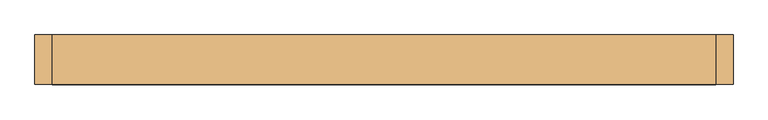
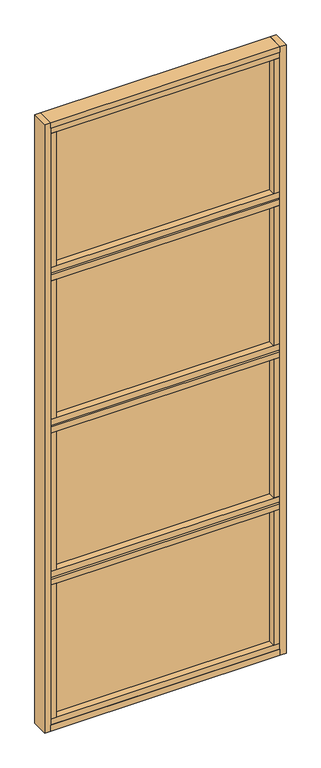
"""IFC4 building model written with IfcOpenShell, lengths in millimetres: door geometry, Mobiliário_Mobiliário de Escritório_Painel de Vidro Simples - AU4T (Completo)_Marelli : AU4T - Temperado."""

import ifcopenshell
import ifcopenshell.guid

model = None  # the IFC model being written
_history = None  # IfcOwnerHistory: only IFC2X3 demands one
_inside = {}  # id of a spatial element -> (the spatial element, [elements in it])
_under = {}  # id of a project, library or spatial element -> (it, [spatial elements below it])
_declared = {}  # id of a project -> (the project, [libraries it declares])
_typed = {}  # id of a type object -> (the type object, [elements of that type])
_made_of = {}  # id of a material, layer set ... -> (it, [elements and type objects made of it])


def new_model(schema):
    """Start an empty IFC model of exactly this schema.

    Asked for "IFC4X3", IfcOpenShell would pick the latest addendum, in which some entities
    have other attributes; the version numbers below select the first issue.
    IFC2X3 requires an IfcOwnerHistory on every rooted entity: one is made here for all.
    """
    global model, _history
    if schema == "IFC4X3":
        model = ifcopenshell.file(schema_version=(4, 3, 0, 0))
    else:
        model = ifcopenshell.file(schema=schema)
    _inside.clear()
    _under.clear()
    _declared.clear()
    _typed.clear()
    _made_of.clear()
    _history = None
    if model.schema == "IFC2X3":
        org = make("IfcOrganization", Name="unknown")
        user = make(
            "IfcPersonAndOrganization",
            ThePerson=make("IfcPerson", FamilyName="unknown"),
            TheOrganization=org,
        )
        app = make(
            "IfcApplication",
            ApplicationDeveloper=org,
            Version="unknown",
            ApplicationFullName="unknown",
            ApplicationIdentifier="unknown",
        )
        _history = make(
            "IfcOwnerHistory",
            OwningUser=user,
            OwningApplication=app,
            ChangeAction="ADDED",
            CreationDate=0,
        )
    return model


def make(cls, **values):
    """One entity of the class cls with the attributes given. An attribute that is None is left unset."""
    return model.create_entity(
        cls, **{name: value for name, value in values.items() if value is not None}
    )


def rooted(cls, **values):
    """An entity with a GlobalId (a new one), such as an element, a storey or a relation."""
    return make(cls, GlobalId=ifcopenshell.guid.new(), OwnerHistory=_history, **values)


def si_unit(unit_type, name, prefix=None):
    """IfcSIUnit, for example si_unit("LENGTHUNIT", "METRE", prefix="MILLI")."""
    return make("IfcSIUnit", UnitType=unit_type, Prefix=prefix, Name=name)


def assignment(units):
    """IfcUnitAssignment: the units of a project."""
    return None if units is None else make("IfcUnitAssignment", Units=units)


def point(xyz):
    """IfcCartesianPoint."""
    return None if xyz is None else make("IfcCartesianPoint", Coordinates=xyz)


def direction(xyz):
    """IfcDirection."""
    return None if xyz is None else make("IfcDirection", DirectionRatios=xyz)


def frame(location, z_axis=None, x_axis=None):
    """IfcAxis2Placement3D, a coordinate frame: its origin and axes. An axis left out is left unset."""
    return make(
        "IfcAxis2Placement3D",
        Location=point(location),
        Axis=direction(z_axis),
        RefDirection=direction(x_axis),
    )


def origin():
    """The frame at (0, 0, 0) with its axes left unset."""
    return frame((0.0, 0.0, 0.0))


def origin_with_axes():
    """The frame at (0, 0, 0) with the z axis (0, 0, 1) and the x axis (1, 0, 0) written out."""
    return frame((0.0, 0.0, 0.0), z_axis=(0.0, 0.0, 1.0), x_axis=(1.0, 0.0, 0.0))


def place(relative_to, where):
    """IfcLocalPlacement: puts the frame where relative to a parent placement (None: the world)."""
    return make(
        "IfcLocalPlacement", PlacementRelTo=relative_to, RelativePlacement=where
    )


def context(
    kind, dimensions, precision=None, world=None, true_north=None, identifier=None
):
    """IfcGeometricRepresentationContext, for example the 3D "Model" context."""
    return make(
        "IfcGeometricRepresentationContext",
        ContextIdentifier=identifier,
        ContextType=kind,
        CoordinateSpaceDimension=dimensions,
        Precision=precision,
        WorldCoordinateSystem=world,
        TrueNorth=true_north,
    )


def project(units=None, contexts=None):
    """IfcProject with its units and contexts."""
    return rooted(
        "IfcProject",
        Name="project",
        RepresentationContexts=contexts,
        UnitsInContext=assignment(units),
    )


def spatial(cls, under=None, at=None, **own):
    """A site, building, storey or space (cls), placed at a placement, below another one or the project."""
    s = rooted(cls, ObjectPlacement=at, **own)
    if under is not None:
        _under.setdefault(under.id(), (under, []))[1].append(s)
    return s


def polyline(points):
    """IfcPolyline through the points."""
    return make("IfcPolyline", Points=[point(p) for p in points])


def outline(outer, holes=None, kind="AREA"):
    """IfcArbitraryClosedProfileDef: a profile drawn as a closed curve; with holes, ...WithVoids."""
    if holes is None:
        return make("IfcArbitraryClosedProfileDef", ProfileType=kind, OuterCurve=outer)
    return make(
        "IfcArbitraryProfileDefWithVoids",
        ProfileType=kind,
        OuterCurve=outer,
        InnerCurves=holes,
    )


def extrude(swept, where, along, depth):
    """IfcExtrudedAreaSolid: the profile swept, set in the frame where, extruded along a direction by depth."""
    return make(
        "IfcExtrudedAreaSolid",
        SweptArea=swept,
        Position=where,
        ExtrudedDirection=direction(along),
        Depth=depth,
    )


def shape(context_of_items, identifier, shape_type, items):
    """IfcShapeRepresentation: the items that make up one representation, for example the "Body"."""
    return make(
        "IfcShapeRepresentation",
        ContextOfItems=context_of_items,
        RepresentationIdentifier=identifier,
        RepresentationType=shape_type,
        Items=items,
    )


def source(mapping_origin, context_of_items, identifier, shape_type, items):
    """IfcRepresentationMap: a shape defined once, which mapped items show again and again."""
    return make(
        "IfcRepresentationMap",
        MappingOrigin=mapping_origin,
        MappedRepresentation=shape(context_of_items, identifier, shape_type, items),
    )


def transform(
    local_origin,
    x_axis=None,
    y_axis=None,
    z_axis=None,
    scale=None,
    scale2=None,
    scale3=None,
    uniform=True,
):
    """IfcCartesianTransformationOperator3D, or its non-uniform kind. x_axis, y_axis, z_axis: its Axis1, 2, 3."""
    if uniform:
        return make(
            "IfcCartesianTransformationOperator3D",
            Axis1=direction(x_axis),
            Axis2=direction(y_axis),
            LocalOrigin=point(local_origin),
            Scale=scale,
            Axis3=direction(z_axis),
        )
    return make(
        "IfcCartesianTransformationOperator3DnonUniform",
        Axis1=direction(x_axis),
        Axis2=direction(y_axis),
        LocalOrigin=point(local_origin),
        Scale=scale,
        Axis3=direction(z_axis),
        Scale2=scale2,
        Scale3=scale3,
    )


def mapped(mapping_source, mapping_target):
    """IfcMappedItem: shows the shape of a source again, moved by a transform."""
    return make(
        "IfcMappedItem", MappingSource=mapping_source, MappingTarget=mapping_target
    )


def made_of(thing, what):
    """Note that an element or type object is made of a material, layer set ...; save() writes the relation."""
    if what is not None:
        _made_of.setdefault(what.id(), (what, []))[1].append(thing)
    return thing


def element(
    cls,
    number,
    at=None,
    inside=None,
    cuts=None,
    type_object=None,
    material=None,
    context=None,
    identifier="Body",
    shape_type=None,
    held_by="IfcProductDefinitionShape",
    body=None,
    shapes=None,
    **own,
):
    """One element of the class cls, such as IfcWall. Its Tag is "e" and its number.

    at: its placement. inside: the storey or other place that contains it. cuts: it is an
    opening in that element (IfcRelVoidsElement). A single representation is given by context,
    identifier, shape_type and body (its items); several are given by shapes. held_by: the class
    of the entity that holds the representations. save() writes the other relations.
    """
    e = rooted(cls, Tag="e%d" % number, ObjectPlacement=at, **own)
    if body is not None:
        shapes = [shape(context, identifier, shape_type, body)]
    if shapes is not None:
        e.Representation = make(held_by, Representations=shapes)
    if inside is not None:
        _inside.setdefault(inside.id(), (inside, []))[1].append(e)
    if cuts is not None:
        rooted(
            "IfcRelVoidsElement", RelatingBuildingElement=cuts, RelatedOpeningElement=e
        )
    if type_object is not None:
        _typed.setdefault(type_object.id(), (type_object, []))[1].append(e)
    return made_of(e, material)


def aggregate(whole, parts):
    """IfcRelAggregates: a whole, such as a stair, and the parts it consists of."""
    return rooted("IfcRelAggregates", RelatingObject=whole, RelatedObjects=parts)


def save(model, path):
    """Write the relations noted so far, then the file.

    IfcRelAggregates (storeys below a building ...), IfcRelContainedInSpatialStructure (elements
    in a storey), IfcRelDefinesByType, IfcRelAssociatesMaterial and IfcRelDeclares: one each for
    every whole, place, type object, material and project.
    """
    for whole, parts in _under.values():
        aggregate(whole, parts)
    for where, things in _inside.values():
        rooted(
            "IfcRelContainedInSpatialStructure",
            RelatedElements=things,
            RelatingStructure=where,
        )
    for kind, things in _typed.values():
        rooted("IfcRelDefinesByType", RelatedObjects=things, RelatingType=kind)
    for what, things in _made_of.values():
        rooted("IfcRelAssociatesMaterial", RelatedObjects=things, RelatingMaterial=what)
    for by, libraries in _declared.values():
        rooted("IfcRelDeclares", RelatingContext=by, RelatedDefinitions=libraries)
    model.write(path)


def door_4c324a29(model_context):
    return source(origin(), model_context, "Body", "SweptSolid", [
        extrude(outline(polyline([(570.0, 42.5), (570.0, -42.5), (-570.0, -42.5), (-570.0, 42.5), (570.0, 42.5)])), origin_with_axes(), (0.0, 0.0, 1.0), 30.0),
        extrude(outline(polyline([(-540.0, 39.5), (-540.0, -39.5), (-570.0, -39.5), (-570.0, 39.5), (-540.0, 39.5)])), frame((0.0, 0.0, 2435.0), z_axis=(0.0, 0.0, 1.0), x_axis=(1.0, 0.0, 0.0)), (0.0, 0.0, 1.0), 705.0),
        extrude(outline(polyline([(540.0, 39.5), (570.0, 39.5), (570.0, -39.5), (540.0, -39.5), (540.0, 39.5)])), frame((0.0, 0.0, 2435.0), z_axis=(0.0, 0.0, 1.0), x_axis=(1.0, 0.0, 0.0)), (0.0, 0.0, 1.0), 705.0),
        extrude(outline(polyline([(540.0, 3.0), (540.0, -3.0), (-540.0, -3.0), (-540.0, 3.0), (540.0, 3.0)])), frame((0.0, 0.0, 2435.0), z_axis=(0.0, 0.0, 1.0), x_axis=(1.0, 0.0, 0.0)), (0.0, 0.0, 1.0), 705.0),
        extrude(outline(polyline([(570.0, 21.5), (570.0, -21.5), (-570.0, -21.5), (-570.0, 21.5), (570.0, 21.5)])), frame((0.0, 0.0, 795.0), z_axis=(0.0, 0.0, 1.0), x_axis=(1.0, 0.0, 0.0)), (0.0, 0.0, 1.0), 10.0),
        extrude(outline(polyline([(570.0, 39.5), (570.0, -39.5), (-570.0, -39.5), (-570.0, 39.5), (570.0, 39.5)])), frame((0.0, 0.0, 805.0), z_axis=(0.0, 0.0, 1.0), x_axis=(1.0, 0.0, 0.0)), (0.0, 0.0, 1.0), 30.0),
        extrude(outline(polyline([(-540.0, 39.5), (-540.0, -39.5), (-570.0, -39.5), (-570.0, 39.5), (-540.0, 39.5)])), frame((0.0, 0.0, 60.0), z_axis=(0.0, 0.0, 1.0), x_axis=(1.0, 0.0, 0.0)), (0.0, 0.0, 1.0), 705.0),
        extrude(outline(polyline([(540.0, 39.5), (570.0, 39.5), (570.0, -39.5), (540.0, -39.5), (540.0, 39.5)])), frame((0.0, 0.0, 60.0), z_axis=(0.0, 0.0, 1.0), x_axis=(1.0, 0.0, 0.0)), (0.0, 0.0, 1.0), 705.0),
        extrude(outline(polyline([(570.0, 39.5), (570.0, -39.5), (-570.0, -39.5), (-570.0, 39.5), (570.0, 39.5)])), frame((0.0, 0.0, 765.0), z_axis=(0.0, 0.0, 1.0), x_axis=(1.0, 0.0, 0.0)), (0.0, 0.0, 1.0), 30.0),
        extrude(outline(polyline([(570.0, 39.5), (570.0, -39.5), (-570.0, -39.5), (-570.0, 39.5), (570.0, 39.5)])), frame((0.0, 0.0, 30.0), z_axis=(0.0, 0.0, 1.0), x_axis=(1.0, 0.0, 0.0)), (0.0, 0.0, 1.0), 30.0),
        extrude(outline(polyline([(540.0, 3.0), (540.0, -3.0), (-540.0, -3.0), (-540.0, 3.0), (540.0, 3.0)])), frame((0.0, 0.0, 60.0), z_axis=(0.0, 0.0, 1.0), x_axis=(1.0, 0.0, 0.0)), (0.0, 0.0, 1.0), 705.0),
        extrude(outline(polyline([(570.0, 42.5), (570.0, -42.5), (-570.0, -42.5), (-570.0, 42.5), (570.0, 42.5)])), frame((0.0, 0.0, 3170.0), z_axis=(0.0, 0.0, 1.0), x_axis=(1.0, 0.0, 0.0)), (0.0, 0.0, 1.0), 30.0),
        extrude(outline(polyline([(570.0, 39.5), (570.0, -39.5), (-570.0, -39.5), (-570.0, 39.5), (570.0, 39.5)])), frame((0.0, 0.0, 2405.0), z_axis=(0.0, 0.0, 1.0), x_axis=(1.0, 0.0, 0.0)), (0.0, 0.0, 1.0), 30.0),
        extrude(outline(polyline([(570.0, 39.5), (570.0, -39.5), (-570.0, -39.5), (-570.0, 39.5), (570.0, 39.5)])), frame((0.0, 0.0, 3140.0), z_axis=(0.0, 0.0, 1.0), x_axis=(1.0, 0.0, 0.0)), (0.0, 0.0, 1.0), 30.0),
        extrude(outline(polyline([(570.0, 21.5), (570.0, -21.5), (-570.0, -21.5), (-570.0, 21.5), (570.0, 21.5)])), frame((0.0, 0.0, 2395.0), z_axis=(0.0, 0.0, 1.0), x_axis=(1.0, 0.0, 0.0)), (0.0, 0.0, 1.0), 10.0),
        extrude(outline(polyline([(570.0, 21.5), (570.0, -21.5), (-570.0, -21.5), (-570.0, 21.5), (570.0, 21.5)])), frame((0.0, 0.0, 1595.0), z_axis=(0.0, 0.0, 1.0), x_axis=(1.0, 0.0, 0.0)), (0.0, 0.0, 1.0), 10.0),
        extrude(outline(polyline([(570.0, 39.5), (570.0, -39.5), (-570.0, -39.5), (-570.0, 39.5), (570.0, 39.5)])), frame((0.0, 0.0, 1605.0), z_axis=(0.0, 0.0, 1.0), x_axis=(1.0, 0.0, 0.0)), (0.0, 0.0, 1.0), 30.0),
        extrude(outline(polyline([(570.0, 39.5), (570.0, -39.5), (-570.0, -39.5), (-570.0, 39.5), (570.0, 39.5)])), frame((0.0, 0.0, 2365.0), z_axis=(0.0, 0.0, 1.0), x_axis=(1.0, 0.0, 0.0)), (0.0, 0.0, 1.0), 30.0),
        extrude(outline(polyline([(570.0, 39.5), (570.0, -39.5), (-570.0, -39.5), (-570.0, 39.5), (570.0, 39.5)])), frame((0.0, 0.0, 1565.0), z_axis=(0.0, 0.0, 1.0), x_axis=(1.0, 0.0, 0.0)), (0.0, 0.0, 1.0), 30.0),
        extrude(outline(polyline([(-600.0, -42.5), (-600.0, 42.5), (-570.0, 42.5), (-570.0, -42.5), (-600.0, -42.5)])), origin_with_axes(), (0.0, 0.0, 1.0), 3200.0),
        extrude(outline(polyline([(600.0, -42.5), (570.0, -42.5), (570.0, 42.5), (600.0, 42.5), (600.0, -42.5)])), origin_with_axes(), (0.0, 0.0, 1.0), 3200.0),
        extrude(outline(polyline([(-540.0, 39.5), (-540.0, -39.5), (-570.0, -39.5), (-570.0, 39.5), (-540.0, 39.5)])), frame((0.0, 0.0, 1635.0), z_axis=(0.0, 0.0, 1.0), x_axis=(1.0, 0.0, 0.0)), (0.0, 0.0, 1.0), 730.0),
        extrude(outline(polyline([(540.0, 39.5), (570.0, 39.5), (570.0, -39.5), (540.0, -39.5), (540.0, 39.5)])), frame((0.0, 0.0, 1635.0), z_axis=(0.0, 0.0, 1.0), x_axis=(1.0, 0.0, 0.0)), (0.0, 0.0, 1.0), 730.0),
        extrude(outline(polyline([(540.0, 3.0), (540.0, -3.0), (-540.0, -3.0), (-540.0, 3.0), (540.0, 3.0)])), frame((0.0, 0.0, 1635.0), z_axis=(0.0, 0.0, 1.0), x_axis=(1.0, 0.0, 0.0)), (0.0, 0.0, 1.0), 730.0),
        extrude(outline(polyline([(-540.0, 39.5), (-540.0, -39.5), (-570.0, -39.5), (-570.0, 39.5), (-540.0, 39.5)])), frame((0.0, 0.0, 835.0), z_axis=(0.0, 0.0, 1.0), x_axis=(1.0, 0.0, 0.0)), (0.0, 0.0, 1.0), 730.0),
        extrude(outline(polyline([(540.0, 39.5), (570.0, 39.5), (570.0, -39.5), (540.0, -39.5), (540.0, 39.5)])), frame((0.0, 0.0, 835.0), z_axis=(0.0, 0.0, 1.0), x_axis=(1.0, 0.0, 0.0)), (0.0, 0.0, 1.0), 730.0),
        extrude(outline(polyline([(540.0, 3.0), (540.0, -3.0), (-540.0, -3.0), (-540.0, 3.0), (540.0, 3.0)])), frame((0.0, 0.0, 835.0), z_axis=(0.0, 0.0, 1.0), x_axis=(1.0, 0.0, 0.0)), (0.0, 0.0, 1.0), 730.0),
    ])


if __name__ == "__main__":
    model = new_model("IFC4")
    model_context = context("Model", 3, world=origin())
    ifc_project = project(units=[si_unit("LENGTHUNIT", "METRE", prefix="MILLI")], contexts=[model_context])
    site = spatial("IfcSite", under=ifc_project)
    building = spatial("IfcBuilding", under=site)
    placement = place(None, origin())
    door_shape = door_4c324a29(model_context)
    element("IfcDoor", 1, ObjectType="Mobiliário_Mobiliário de Escritório_Painel de Vidro Simples - AU4T (Completo)_Marelli : AU4T - Temperado", at=placement, inside=building, context=model_context, shape_type="MappedRepresentation", body=[
        mapped(door_shape, transform((0.0, 0.0, 0.0), x_axis=(1.0, 0.0, 0.0), y_axis=(0.0, 1.0, 0.0), z_axis=(0.0, 0.0, 1.0))),
    ])
    save(model, "model.ifc")
